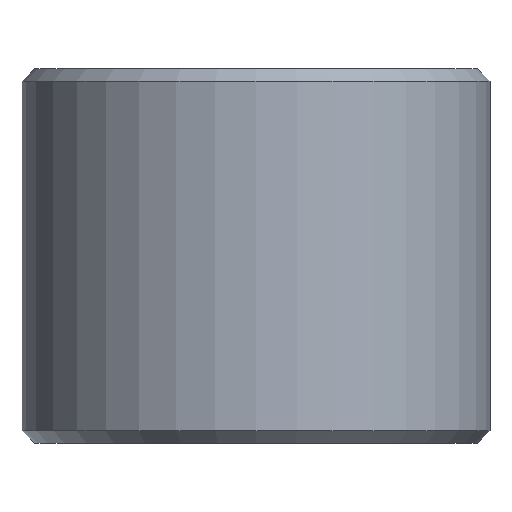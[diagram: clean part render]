
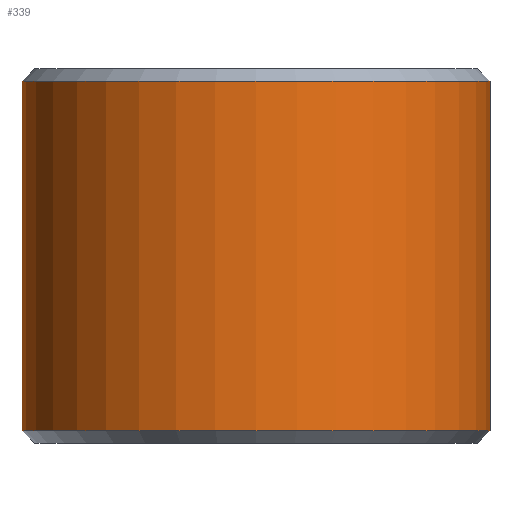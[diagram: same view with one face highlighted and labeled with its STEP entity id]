
A CAD part, front view. The second image highlights one B-rep face of the part: STEP entity #339.
In plain terms, the highlighted cylindrical face has radius 30 mm (diameter 60 mm), a partial arc.
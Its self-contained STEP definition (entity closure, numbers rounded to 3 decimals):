
#2 = LINE ( 'NONE', #347, #257 ) ;
#4 = CYLINDRICAL_SURFACE ( 'NONE', #13, 30. ) ;
#9 = DIRECTION ( 'NONE',  ( 1., 0., 0. ) ) ;
#13 = AXIS2_PLACEMENT_3D ( 'NONE', #380, #270, #415 ) ;
#15 = EDGE_LOOP ( 'NONE', ( #155, #435, #284, #370 ) ) ;
#16 = CIRCLE ( 'NONE', #115, 30. ) ;
#79 = AXIS2_PLACEMENT_3D ( 'NONE', #402, #226, #411 ) ;
#113 = CARTESIAN_POINT ( 'NONE',  ( 30., 0., -22.4 ) ) ;
#115 = AXIS2_PLACEMENT_3D ( 'NONE', #275, #211, #9 ) ;
#138 = CARTESIAN_POINT ( 'NONE',  ( -30., 0., 22.4 ) ) ;
#150 = VERTEX_POINT ( 'NONE', #266 ) ;
#155 = ORIENTED_EDGE ( 'NONE', *, *, #316, .F. ) ;
#161 = EDGE_CURVE ( 'NONE', #215, #286, #167, .T. ) ;
#167 = CIRCLE ( 'NONE', #79, 30. ) ;
#190 = CARTESIAN_POINT ( 'NONE',  ( -30., 0., 24. ) ) ;
#191 = EDGE_CURVE ( 'NONE', #286, #150, #335, .T. ) ;
#211 = DIRECTION ( 'NONE',  ( 0., 0., 1. ) ) ;
#215 = VERTEX_POINT ( 'NONE', #269 ) ;
#226 = DIRECTION ( 'NONE',  ( 0., 0., -1. ) ) ;
#237 = EDGE_CURVE ( 'NONE', #150, #389, #16, .T. ) ;
#257 = VECTOR ( 'NONE', #346, 1000. ) ;
#266 = CARTESIAN_POINT ( 'NONE',  ( -30., 0., -22.4 ) ) ;
#269 = CARTESIAN_POINT ( 'NONE',  ( 30., 0., 22.4 ) ) ;
#270 = DIRECTION ( 'NONE',  ( 0., 0., -1. ) ) ;
#275 = CARTESIAN_POINT ( 'NONE',  ( 0., 0., -22.4 ) ) ;
#284 = ORIENTED_EDGE ( 'NONE', *, *, #191, .T. ) ;
#286 = VERTEX_POINT ( 'NONE', #138 ) ;
#312 = FACE_OUTER_BOUND ( 'NONE', #15, .T. ) ;
#316 = EDGE_CURVE ( 'NONE', #215, #389, #2, .T. ) ;
#335 = LINE ( 'NONE', #190, #416 ) ;
#339 = ADVANCED_FACE ( 'NONE', ( #312 ), #4, .T. ) ;
#346 = DIRECTION ( 'NONE',  ( 0., 0., -1. ) ) ;
#347 = CARTESIAN_POINT ( 'NONE',  ( 30., 0., 24. ) ) ;
#370 = ORIENTED_EDGE ( 'NONE', *, *, #237, .T. ) ;
#380 = CARTESIAN_POINT ( 'NONE',  ( 0., 0., 24. ) ) ;
#389 = VERTEX_POINT ( 'NONE', #113 ) ;
#402 = CARTESIAN_POINT ( 'NONE',  ( 0., 0., 22.4 ) ) ;
#411 = DIRECTION ( 'NONE',  ( 1., 0., 0. ) ) ;
#415 = DIRECTION ( 'NONE',  ( -1., 0., 0. ) ) ;
#416 = VECTOR ( 'NONE', #446, 1000. ) ;
#435 = ORIENTED_EDGE ( 'NONE', *, *, #161, .T. ) ;
#446 = DIRECTION ( 'NONE',  ( 0., 0., -1. ) ) ;
